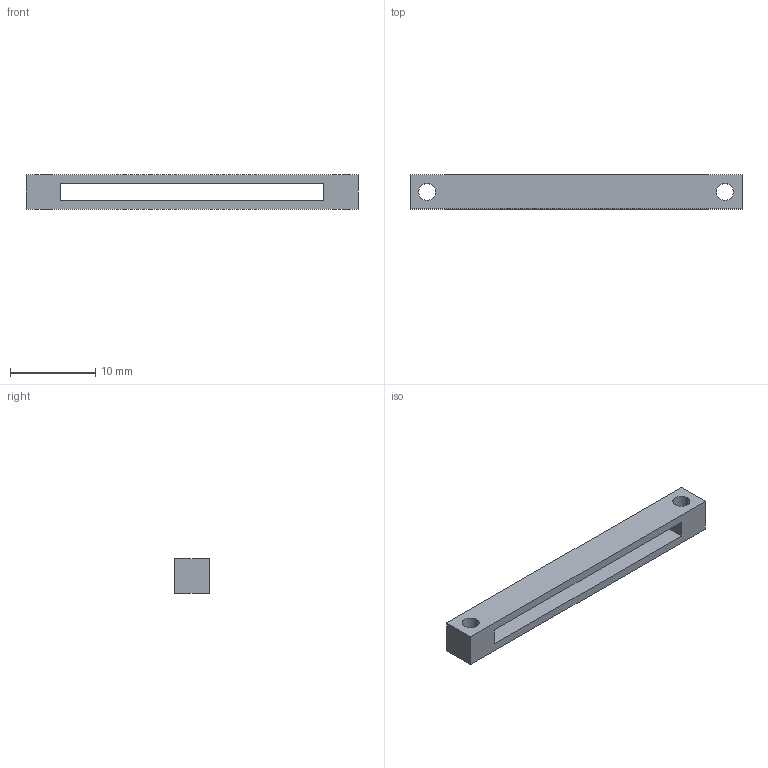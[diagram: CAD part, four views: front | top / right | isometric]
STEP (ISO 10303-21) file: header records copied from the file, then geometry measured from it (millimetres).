
FILE_DESCRIPTION (( 'STEP AP203' ), '1' );
FILE_NAME ('Bielle AR_Défaut_sldprt.STEP', '2025-03-05T11:19:44', ( '' ), ( '' ), 'SwSTEP 2.0', 'SolidWorks 2023', '' );
FILE_SCHEMA (( 'CONFIG_CONTROL_DESIGN' ));
Length unit declared in the file: millimetre
Products named in the file (1): Bielle AR_Défaut_sldprt
Bounding box: 39 x 4 x 4 mm (x, y, z)
Volume: 350.9 mm3; surface area: 833.7 mm2
Topology: 1 solids, 1 shells, 14 faces, 36 edges, 24 vertices
Faces by surface type: plane 10, cylinder 4
Entity records: 517 total; most frequent: CARTESIAN_POINT 75, DIRECTION 74, ORIENTED_EDGE 72, EDGE_CURVE 36, LINE 28, VECTOR 28, VERTEX_POINT 24, AXIS2_PLACEMENT_3D 23
